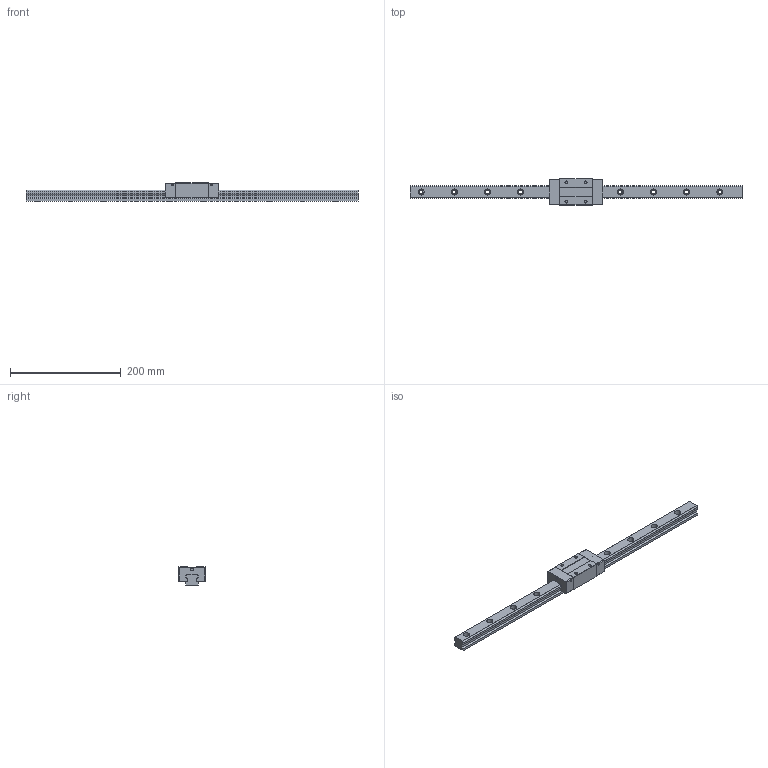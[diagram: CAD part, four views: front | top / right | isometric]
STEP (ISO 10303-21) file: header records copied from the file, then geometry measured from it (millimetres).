
FILE_DESCRIPTION (( 'STEP AP203' ), '1' );
FILE_NAME ('TRS25VN-DU.STEP', '2024-07-12T02:23:28', ( '' ), ( '' ), 'SwSTEP 2.0', 'SolidWorks 2022', '' );
FILE_SCHEMA (( 'CONFIG_CONTROL_DESIGN' ));
Length unit declared in the file: millimetre
Products named in the file (1): TRS25VN-DU
Bounding box: 600 x 48 x 33 mm (x, y, z)
Volume: 329406.2 mm3; surface area: 79410.1 mm2
Topology: 2 solids, 2 shells, 192 faces, 496 edges, 328 vertices
Faces by surface type: cylinder 96, plane 96
Entity records: 6023 total; most frequent: DIRECTION 1074, CARTESIAN_POINT 1017, ORIENTED_EDGE 992, EDGE_CURVE 496, AXIS2_PLACEMENT_3D 385, VERTEX_POINT 328, LINE 304, VECTOR 304
